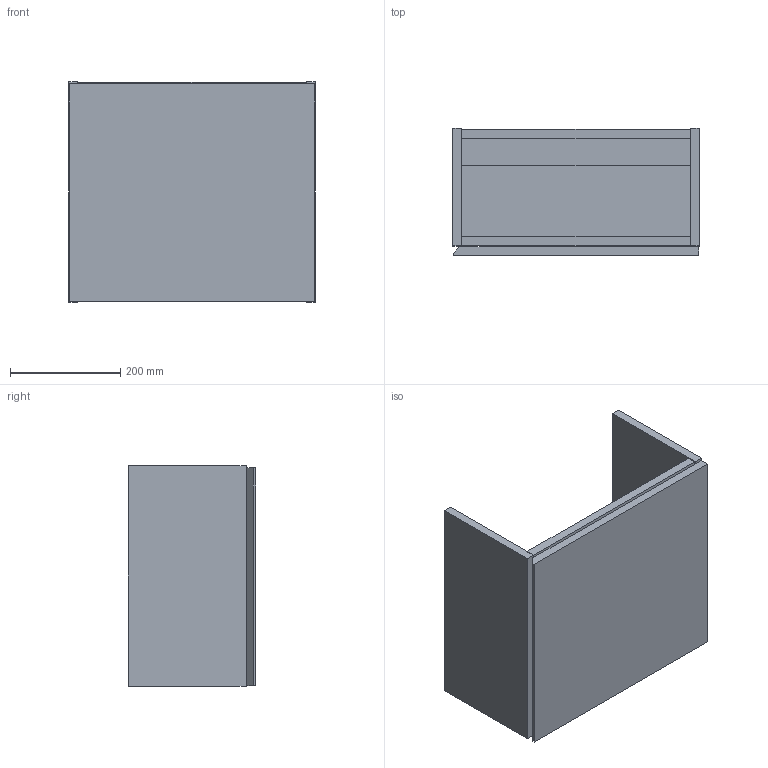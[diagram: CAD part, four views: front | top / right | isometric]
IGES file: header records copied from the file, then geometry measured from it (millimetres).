
Global section: file name: 510017; native system: Autodesk Inventor 2023; preprocessor: unknown; author: JANAN; date: 20241002.131516; units: millimetre
Bounding box: 447 x 231 x 400 mm (x, y, z)
Volume: 8006745.6 mm3; surface area: 1119442.4 mm2
Topology: 6 solids, 6 shells, 41 faces, 87 edges, 58 vertices
Faces by surface type: bspline 41
